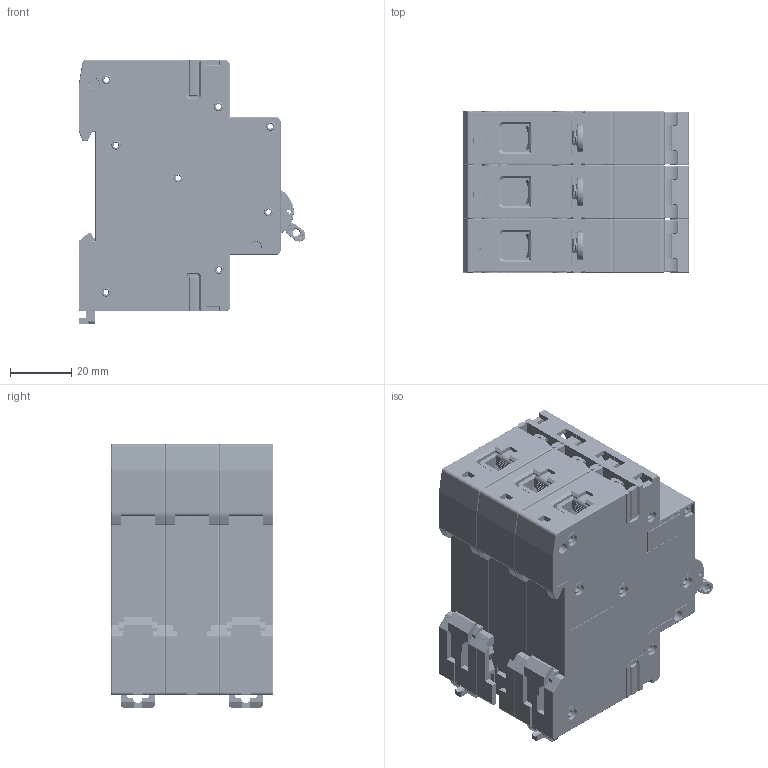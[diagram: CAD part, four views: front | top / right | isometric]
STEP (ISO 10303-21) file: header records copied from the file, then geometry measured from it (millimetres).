
FILE_DESCRIPTION (( 'STEP AP214' ), '1' );
FILE_NAME ('TDA-3B-32.STEP', '2026-05-26T12:50:58', ( '' ), ( '' ), 'SwSTEP 2.0', 'SolidWorks 2025', '' );
FILE_SCHEMA (( 'AUTOMOTIVE_DESIGN' ));
Length unit declared in the file: millimetre
Products named in the file (1): TDA-3B-32
Bounding box: 74.14 x 53 x 86 mm (x, y, z)
Volume: 85916.6 mm3; surface area: 126258.8 mm2
Topology: 64 solids, 70 shells, 7178 faces, 20692 edges, 13828 vertices
Faces by surface type: plane 4171, cylinder 2164, bspline 387, torus 264, cone 192
Entity records: 373205 total; most frequent: CARTESIAN_POINT 114736, ORIENTED_EDGE 41288, DIRECTION 34150, EDGE_CURVE 20644, VERTEX_POINT 13828, VECTOR 12602, LINE 12602, AXIS2_PLACEMENT_3D 10774
